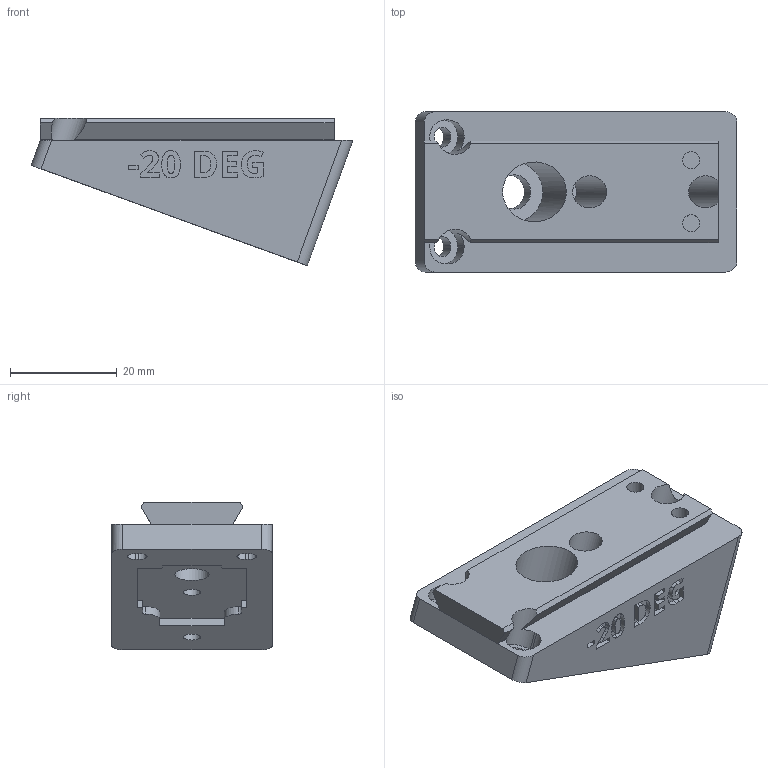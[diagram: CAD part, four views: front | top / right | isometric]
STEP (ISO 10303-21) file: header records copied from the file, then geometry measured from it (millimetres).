
FILE_DESCRIPTION(/* description */ ('STEP AP242 Edition 2','CAx-IF Rec.Pracs.---Representation and Presentation of Product Manufacturing Information (PMI)---4.0---2014-10-13','CAx-IF Rec.Pracs.---3D Tessellated Geometry---0.4---2014-09-14','2;1','CAx-IF Rec.Pracs.---User Defined Attributes---1.5---2016-08-15'),/* implementation_level */ '2;1');
FILE_NAME(/* name */ 'Camera Wedges - CAMERA MOUNTING WEDGE, NEG, -20 DEG',/* time_stamp */ '2026-07-08T20:35:25Z',/* author */ (''),/* organization */ (''),/* preprocessor_version */ 'ST-DEVELOPER v20',/* originating_system */ 'ONSHAPE BY PTC INC, 1.217',/* authorisation */ ' ');
FILE_SCHEMA (('AP242_MANAGED_MODEL_BASED_3D_ENGINEERING_MIM_LF { 1 0 10303 442 3 1 4 }'));
Length unit declared in the file: metre
Products named in the file (1): CAMERA MOUNTING WEDGE, NEG, -20 DEG
Bounding box: 60.23 x 30 x 27.59 mm (x, y, z)
Volume: 24925.4 mm3; surface area: 8443.6 mm2
Topology: 1 solids, 1 shells, 267 faces, 730 edges, 486 vertices
Faces by surface type: plane 139, bspline 76, cylinder 52
Full cylindrical faces by diameter (mm): 3.2 x4, 6 x2, 6.4 x1, 11.2 x1
Entity records: 8682 total; most frequent: CARTESIAN_POINT 2310, ORIENTED_EDGE 1442, DIRECTION 1070, EDGE_CURVE 721, VERTEX_POINT 485, LINE 452, VECTOR 452, AXIS2_PLACEMENT_3D 309
